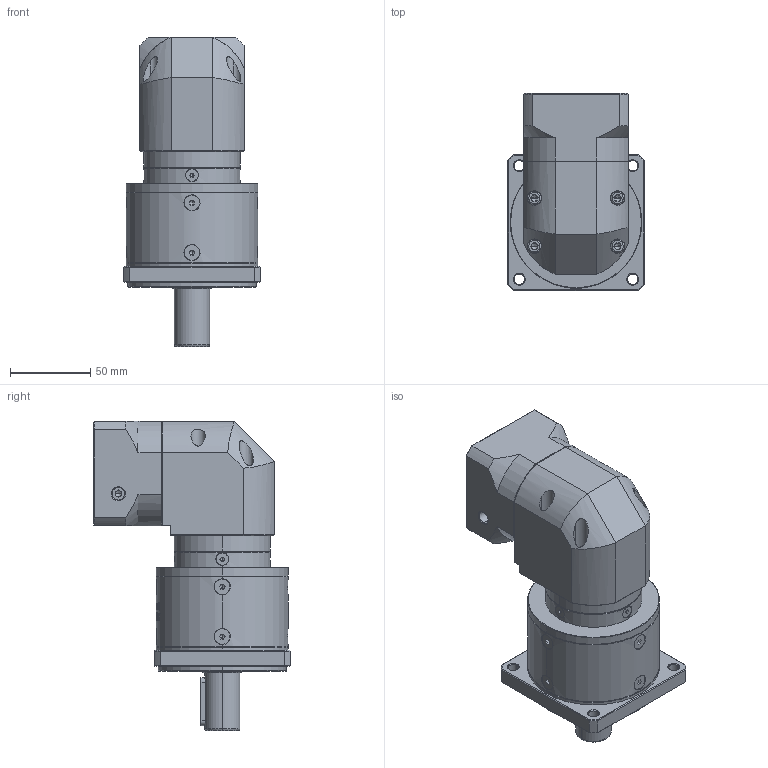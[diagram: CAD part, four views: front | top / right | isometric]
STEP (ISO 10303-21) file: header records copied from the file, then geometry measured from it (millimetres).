
FILE_DESCRIPTION (( 'STEP AP214' ), '1' );
FILE_NAME ('ZFR080-D22-L2-P2-14-60-75-M5.step', '2023-08-25T07:21:15', ( '' ), ( '' ), 'SwSTEP 2.0', 'SolidWorks 2016', '' );
FILE_SCHEMA (( 'AUTOMOTIVE_DESIGN' ));
Length unit declared in the file: millimetre
Products named in the file (1): ZFR080-D22-L2-P2-14-60-75-M5
Bounding box: 85 x 122.7 x 192.5 mm (x, y, z)
Volume: 802170.4 mm3; surface area: 103695.5 mm2
Topology: 17 solids, 18 shells, 2449 faces, 6413 edges, 4079 vertices
Faces by surface type: plane 1176, cylinder 450, bspline 394, cone 381, torus 48
Entity records: 127212 total; most frequent: CARTESIAN_POINT 44782, ORIENTED_EDGE 12734, DIRECTION 9887, EDGE_CURVE 6367, VERTEX_POINT 4079, LINE 3375, VECTOR 3375, AXIS2_PLACEMENT_3D 3256
